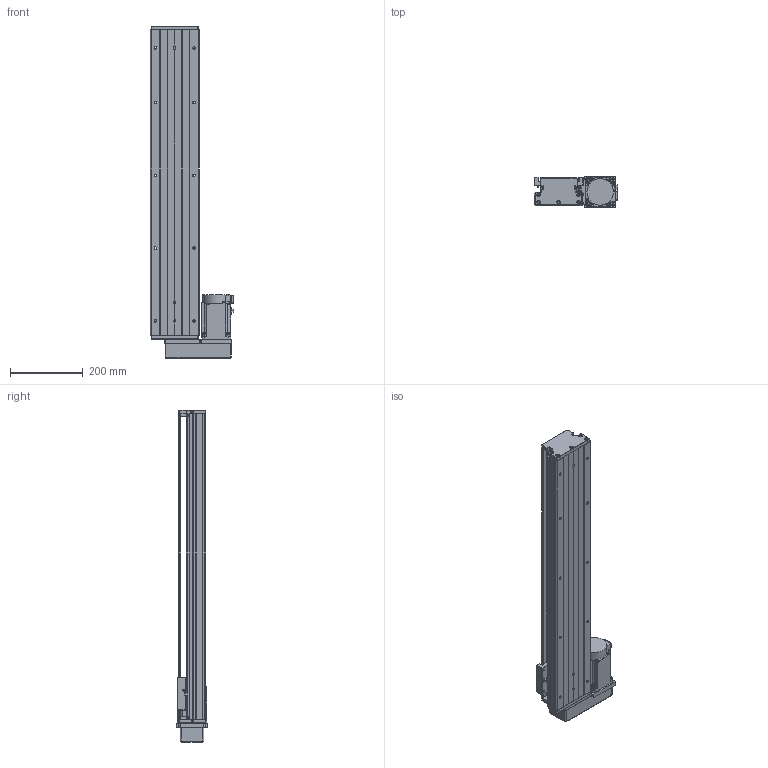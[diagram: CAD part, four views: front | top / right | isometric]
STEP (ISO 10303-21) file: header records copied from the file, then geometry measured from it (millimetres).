
FILE_DESCRIPTION (( 'STEP AP203' ), '1' );
FILE_NAME ('KTH130-700-BR-M75-C4.step', '2023-06-30T04:56:28', ( '微软用户' ), ( '微软中国' ), 'SwSTEP 2.0', 'SolidWorks 2020', '' );
FILE_SCHEMA (( 'CONFIG_CONTROL_DESIGN' ));
Length unit declared in the file: millimetre
Products named in the file (18): KTH130-005; GBT 70.1-M3℅5; KTH130-700-BR-M75-C4; GB1155-6X6; GBT77-2000 M3×3; GBT70.1 M5℅16; す晦芛蹟隊 M3℅5; GBT 70.2-M3¡Á5_M3¡Á6; GBT 70.3-M3℅8; GTH14-001_700; CTHA60-017; hg-kn73j_-s100; KTH130-002_KTH130-002; EE_SX911P_R; CTHA86-015-3_CTHA86-015-4; KTH130-004; CTHA60-016; CTHA86-035
Assembly tree (49 placements, depth 2):
  KTH130-700-BR-M75-C4
    GTH14-001_700
    KTH130-002_KTH130-002
    KTH130-004
    KTH130-005
    GB1155-6X6  x2
    GBT70.1 M5℅16  x10
    GBT 70.2-M3¡Á5_M3¡Á6  x4
    CTHA60-017  x3
    EE_SX911P_R  x3
    CTHA60-016  x2
    GBT 70.1-M3℅5  x6
    GBT77-2000 M3×3  x6
    す晦芛蹟隊 M3℅5  x2
    GBT 70.3-M3℅8  x4
    hg-kn73j_-s100
    CTHA86-015-3_CTHA86-015-4
    CTHA86-035
Bounding box: 230.3 x 87 x 912 mm (x, y, z)
Volume: 5977032.1 mm3; surface area: 859989.1 mm2
Topology: 52 solids, 52 shells, 2192 faces, 5316 edges, 3327 vertices
Faces by surface type: plane 1208, cylinder 630, cone 238, torus 100, sphere 16
Entity records: 39945 total; most frequent: CARTESIAN_POINT 6722, DIRECTION 6577, ORIENTED_EDGE 6136, EDGE_CURVE 3068, AXIS2_PLACEMENT_3D 2300, LINE 1977, VECTOR 1977, VERTEX_POINT 1961
